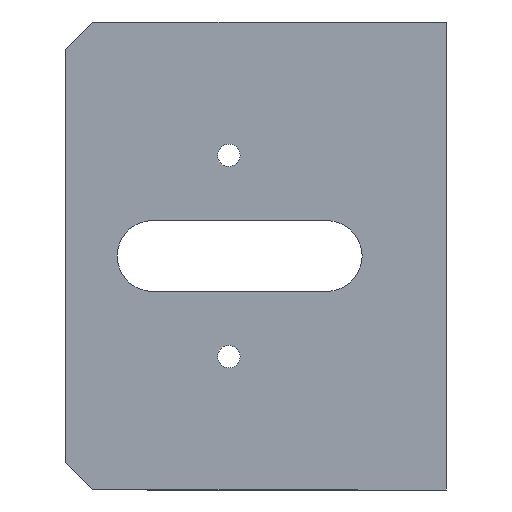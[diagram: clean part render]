
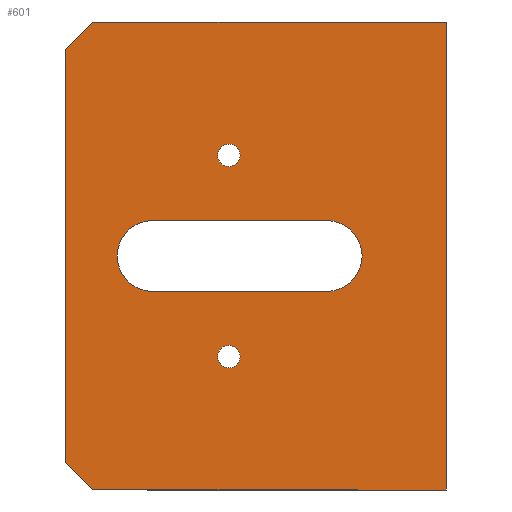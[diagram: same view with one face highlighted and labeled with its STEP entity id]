
A CAD part, left-side view. The second image highlights one B-rep face of the part: STEP entity #601.
In plain terms, the highlighted planar face has unit normal (-1, 0, 0).
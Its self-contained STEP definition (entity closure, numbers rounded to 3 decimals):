
#7 = DIRECTION ( 'NONE',  ( 1., 0., 0. ) ) ;
#38 = EDGE_CURVE ( 'NONE', #539, #968, #63, .T. ) ;
#43 = VECTOR ( 'NONE', #460, 1000. ) ;
#58 = CARTESIAN_POINT ( 'NONE',  ( -10., 5., -18.5 ) ) ;
#60 = CARTESIAN_POINT ( 'NONE',  ( -10., 35., -38. ) ) ;
#63 = CIRCLE ( 'NONE', #796, 2.067 ) ;
#65 = DIRECTION ( 'NONE',  ( 0., 0., -1. ) ) ;
#66 = EDGE_CURVE ( 'NONE', #694, #1264, #573, .T. ) ;
#68 = EDGE_LOOP ( 'NONE', ( #863, #579, #1315, #751, #1133, #1283 ) ) ;
#72 = EDGE_CURVE ( 'NONE', #581, #1464, #112, .T. ) ;
#76 = CARTESIAN_POINT ( 'NONE',  ( -10., 30., -43. ) ) ;
#89 = VECTOR ( 'NONE', #1448, 1000. ) ;
#91 = VECTOR ( 'NONE', #320, 1000. ) ;
#111 = DIRECTION ( 'NONE',  ( 0., -1., 0. ) ) ;
#112 = LINE ( 'NONE', #411, #1512 ) ;
#124 = CARTESIAN_POINT ( 'NONE',  ( -10., 19., 0. ) ) ;
#134 = ORIENTED_EDGE ( 'NONE', *, *, #66, .T. ) ;
#143 = EDGE_CURVE ( 'NONE', #1010, #694, #244, .T. ) ;
#157 = CARTESIAN_POINT ( 'NONE',  ( -10., 19., -6.5 ) ) ;
#180 = VERTEX_POINT ( 'NONE', #1347 ) ;
#182 = LINE ( 'NONE', #550, #1116 ) ;
#189 = DIRECTION ( 'NONE',  ( 1., 0., 0. ) ) ;
#198 = AXIS2_PLACEMENT_3D ( 'NONE', #124, #355, #596 ) ;
#199 = DIRECTION ( 'NONE',  ( 0., 1., 0. ) ) ;
#210 = VERTEX_POINT ( 'NONE', #60 ) ;
#227 = CARTESIAN_POINT ( 'NONE',  ( -10., -35., 43. ) ) ;
#241 = AXIS2_PLACEMENT_3D ( 'NONE', #58, #645, #528 ) ;
#244 = CIRCLE ( 'NONE', #198, 6.5 ) ;
#298 = DIRECTION ( 'NONE',  ( 0., 0., -1. ) ) ;
#320 = DIRECTION ( 'NONE',  ( 0., 0.707, -0.707 ) ) ;
#325 = EDGE_CURVE ( 'NONE', #1464, #469, #684, .T. ) ;
#353 = CARTESIAN_POINT ( 'NONE',  ( -10., 19., 6.5 ) ) ;
#354 = VERTEX_POINT ( 'NONE', #406 ) ;
#355 = DIRECTION ( 'NONE',  ( 1., 0., 0. ) ) ;
#371 = ORIENTED_EDGE ( 'NONE', *, *, #577, .T. ) ;
#400 = LINE ( 'NONE', #678, #91 ) ;
#406 = CARTESIAN_POINT ( 'NONE',  ( -10., 30., -43. ) ) ;
#409 = EDGE_CURVE ( 'NONE', #469, #354, #1308, .T. ) ;
#411 = CARTESIAN_POINT ( 'NONE',  ( -10., 35., 43. ) ) ;
#426 = DIRECTION ( 'NONE',  ( 1., 0., 0. ) ) ;
#430 = ORIENTED_EDGE ( 'NONE', *, *, #143, .T. ) ;
#444 = ORIENTED_EDGE ( 'NONE', *, *, #1441, .T. ) ;
#454 = FACE_BOUND ( 'NONE', #705, .T. ) ;
#460 = DIRECTION ( 'NONE',  ( 0., 0., -1. ) ) ;
#469 = VERTEX_POINT ( 'NONE', #824 ) ;
#475 = CARTESIAN_POINT ( 'NONE',  ( -10., 5., -16.433 ) ) ;
#477 = VECTOR ( 'NONE', #111, 1000. ) ;
#500 = VERTEX_POINT ( 'NONE', #582 ) ;
#528 = DIRECTION ( 'NONE',  ( 0., 0., -1. ) ) ;
#538 = CARTESIAN_POINT ( 'NONE',  ( -10., 5., 18.5 ) ) ;
#539 = VERTEX_POINT ( 'NONE', #924 ) ;
#550 = CARTESIAN_POINT ( 'NONE',  ( -10., 19., -6.5 ) ) ;
#555 = AXIS2_PLACEMENT_3D ( 'NONE', #787, #872, #65 ) ;
#573 = LINE ( 'NONE', #1069, #477 ) ;
#575 = VERTEX_POINT ( 'NONE', #1138 ) ;
#577 = EDGE_CURVE ( 'NONE', #575, #1010, #182, .T. ) ;
#579 = ORIENTED_EDGE ( 'NONE', *, *, #1430, .T. ) ;
#581 = VERTEX_POINT ( 'NONE', #1253 ) ;
#582 = CARTESIAN_POINT ( 'NONE',  ( -10., 5., -20.567 ) ) ;
#596 = DIRECTION ( 'NONE',  ( 0., 0., -1. ) ) ;
#601 = ADVANCED_FACE ( 'NONE', ( #865, #454, #1438, #1137 ), #1248, .F. ) ;
#603 = CIRCLE ( 'NONE', #555, 2.067 ) ;
#619 = VECTOR ( 'NONE', #1370, 1000. ) ;
#634 = EDGE_CURVE ( 'NONE', #1193, #500, #603, .T. ) ;
#645 = DIRECTION ( 'NONE',  ( 1., 0., 0. ) ) ;
#678 = CARTESIAN_POINT ( 'NONE',  ( -10., 35., 38. ) ) ;
#684 = LINE ( 'NONE', #227, #43 ) ;
#687 = EDGE_CURVE ( 'NONE', #500, #1193, #1415, .T. ) ;
#694 = VERTEX_POINT ( 'NONE', #353 ) ;
#705 = EDGE_LOOP ( 'NONE', ( #1349, #1327 ) ) ;
#749 = CARTESIAN_POINT ( 'NONE',  ( -10., 35., -43. ) ) ;
#751 = ORIENTED_EDGE ( 'NONE', *, *, #325, .F. ) ;
#753 = EDGE_LOOP ( 'NONE', ( #371, #430, #134, #1336 ) ) ;
#779 = DIRECTION ( 'NONE',  ( 0., 0., -1. ) ) ;
#787 = CARTESIAN_POINT ( 'NONE',  ( -10., 5., -18.5 ) ) ;
#796 = AXIS2_PLACEMENT_3D ( 'NONE', #869, #1097, #983 ) ;
#814 = LINE ( 'NONE', #76, #1118 ) ;
#824 = CARTESIAN_POINT ( 'NONE',  ( -10., -35., -43. ) ) ;
#858 = EDGE_CURVE ( 'NONE', #1264, #575, #1194, .T. ) ;
#863 = ORIENTED_EDGE ( 'NONE', *, *, #1447, .F. ) ;
#865 = FACE_BOUND ( 'NONE', #1223, .T. ) ;
#869 = CARTESIAN_POINT ( 'NONE',  ( -10., 5., 18.5 ) ) ;
#872 = DIRECTION ( 'NONE',  ( 1., 0., 0. ) ) ;
#924 = CARTESIAN_POINT ( 'NONE',  ( -10., 5., 16.433 ) ) ;
#960 = DIRECTION ( 'NONE',  ( 0., 0., -1. ) ) ;
#963 = ORIENTED_EDGE ( 'NONE', *, *, #38, .T. ) ;
#968 = VERTEX_POINT ( 'NONE', #1222 ) ;
#983 = DIRECTION ( 'NONE',  ( 0., 0., -1. ) ) ;
#1010 = VERTEX_POINT ( 'NONE', #157 ) ;
#1014 = LINE ( 'NONE', #1483, #619 ) ;
#1022 = CARTESIAN_POINT ( 'NONE',  ( -10., -35., 43. ) ) ;
#1069 = CARTESIAN_POINT ( 'NONE',  ( -10., 19., 6.5 ) ) ;
#1097 = DIRECTION ( 'NONE',  ( 1., 0., 0. ) ) ;
#1101 = AXIS2_PLACEMENT_3D ( 'NONE', #1461, #7, #960 ) ;
#1116 = VECTOR ( 'NONE', #199, 1000. ) ;
#1118 = VECTOR ( 'NONE', #1470, 1000. ) ;
#1133 = ORIENTED_EDGE ( 'NONE', *, *, #72, .F. ) ;
#1137 = FACE_OUTER_BOUND ( 'NONE', #68, .T. ) ;
#1138 = CARTESIAN_POINT ( 'NONE',  ( -10., -13., -6.5 ) ) ;
#1176 = AXIS2_PLACEMENT_3D ( 'NONE', #538, #426, #298 ) ;
#1193 = VERTEX_POINT ( 'NONE', #475 ) ;
#1194 = CIRCLE ( 'NONE', #1101, 6.5 ) ;
#1209 = CIRCLE ( 'NONE', #1176, 2.067 ) ;
#1222 = CARTESIAN_POINT ( 'NONE',  ( -10., 5., 20.567 ) ) ;
#1223 = EDGE_LOOP ( 'NONE', ( #963, #444 ) ) ;
#1248 = PLANE ( 'NONE',  #1270 ) ;
#1253 = CARTESIAN_POINT ( 'NONE',  ( -10., 30., 43. ) ) ;
#1264 = VERTEX_POINT ( 'NONE', #1376 ) ;
#1270 = AXIS2_PLACEMENT_3D ( 'NONE', #1488, #189, #779 ) ;
#1283 = ORIENTED_EDGE ( 'NONE', *, *, #1329, .T. ) ;
#1307 = DIRECTION ( 'NONE',  ( 0., -1., 0. ) ) ;
#1308 = LINE ( 'NONE', #749, #89 ) ;
#1315 = ORIENTED_EDGE ( 'NONE', *, *, #409, .F. ) ;
#1327 = ORIENTED_EDGE ( 'NONE', *, *, #634, .T. ) ;
#1329 = EDGE_CURVE ( 'NONE', #581, #180, #400, .T. ) ;
#1336 = ORIENTED_EDGE ( 'NONE', *, *, #858, .T. ) ;
#1347 = CARTESIAN_POINT ( 'NONE',  ( -10., 35., 38. ) ) ;
#1349 = ORIENTED_EDGE ( 'NONE', *, *, #687, .T. ) ;
#1370 = DIRECTION ( 'NONE',  ( 0., 0., 1. ) ) ;
#1376 = CARTESIAN_POINT ( 'NONE',  ( -10., -13., 6.5 ) ) ;
#1415 = CIRCLE ( 'NONE', #241, 2.067 ) ;
#1430 = EDGE_CURVE ( 'NONE', #210, #354, #814, .T. ) ;
#1438 = FACE_BOUND ( 'NONE', #753, .T. ) ;
#1441 = EDGE_CURVE ( 'NONE', #968, #539, #1209, .T. ) ;
#1447 = EDGE_CURVE ( 'NONE', #210, #180, #1014, .T. ) ;
#1448 = DIRECTION ( 'NONE',  ( 0., 1., 0. ) ) ;
#1461 = CARTESIAN_POINT ( 'NONE',  ( -10., -13., 0. ) ) ;
#1464 = VERTEX_POINT ( 'NONE', #1022 ) ;
#1470 = DIRECTION ( 'NONE',  ( 0., -0.707, -0.707 ) ) ;
#1483 = CARTESIAN_POINT ( 'NONE',  ( -10., 35., 43. ) ) ;
#1488 = CARTESIAN_POINT ( 'NONE',  ( -10., 0., 0. ) ) ;
#1512 = VECTOR ( 'NONE', #1307, 1000. ) ;
